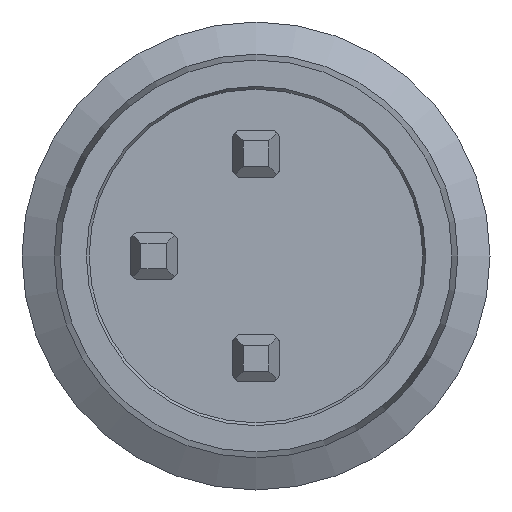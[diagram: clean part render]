
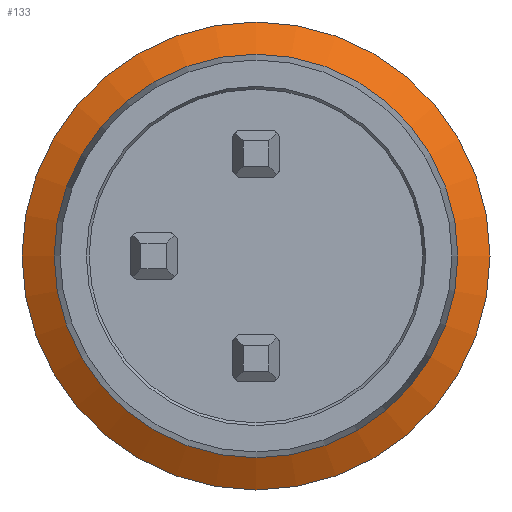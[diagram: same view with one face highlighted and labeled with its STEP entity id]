
A CAD part, left-side view. The second image highlights one B-rep face of the part: STEP entity #133.
In plain terms, the highlighted conical face has half-angle 60 degrees and reference radius 4 mm.
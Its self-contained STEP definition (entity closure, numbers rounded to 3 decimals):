
#133 = ADVANCED_FACE( '', ( #273, #274 ), #275, .T. );
#273 = FACE_BOUND( '', #418, .T. );
#274 = FACE_OUTER_BOUND( '', #419, .T. );
#275 = CONICAL_SURFACE( '', #420, 4., 1.047 );
#418 = EDGE_LOOP( '', ( #853 ) );
#419 = EDGE_LOOP( '', ( #854 ) );
#420 = AXIS2_PLACEMENT_3D( '', #855, #856, #857 );
#853 = ORIENTED_EDGE( '', *, *, #994, .F. );
#854 = ORIENTED_EDGE( '', *, *, #995, .T. );
#855 = CARTESIAN_POINT( '', ( -42.467, 0., 0. ) );
#856 = DIRECTION( '', ( 1., 0., 0. ) );
#857 = DIRECTION( '', ( 0., 0., -1. ) );
#994 = EDGE_CURVE( '', #1213, #1213, #1214, .T. );
#995 = EDGE_CURVE( '', #1215, #1215, #1216, .T. );
#1213 = VERTEX_POINT( '', #1705 );
#1214 = CIRCLE( '', #1706, 3.25 );
#1215 = VERTEX_POINT( '', #1707 );
#1216 = CIRCLE( '', #1708, 4. );
#1705 = CARTESIAN_POINT( '', ( -42.9, 0., 3.25 ) );
#1706 = AXIS2_PLACEMENT_3D( '', #1927, #1928, #1929 );
#1707 = CARTESIAN_POINT( '', ( -42.467, 0., 4. ) );
#1708 = AXIS2_PLACEMENT_3D( '', #1930, #1931, #1932 );
#1927 = CARTESIAN_POINT( '', ( -42.9, 0., 0. ) );
#1928 = DIRECTION( '', ( -1., 0., 0. ) );
#1929 = DIRECTION( '', ( 0., 0., 1. ) );
#1930 = CARTESIAN_POINT( '', ( -42.467, 0., 0. ) );
#1931 = DIRECTION( '', ( -1., 0., 0. ) );
#1932 = DIRECTION( '', ( 0., 0., 1. ) );
